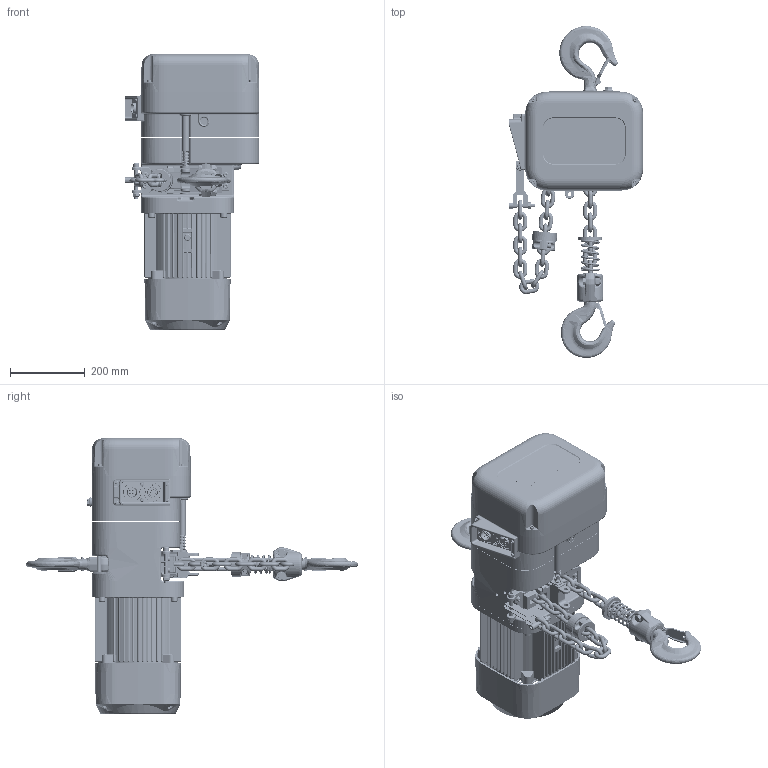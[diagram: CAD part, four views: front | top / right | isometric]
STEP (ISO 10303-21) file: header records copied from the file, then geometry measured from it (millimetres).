
FILE_DESCRIPTION (( 'STEP AP214' ), '1' );
FILE_NAME ('NER2025S.STEP', '2025-10-10T19:14:53', ( '' ), ( '' ), 'SwSTEP 2.0', 'SolidWorks 2025', '' );
FILE_SCHEMA (( 'AUTOMOTIVE_DESIGN' ));
Length unit declared in the file: millimetre
Products named in the file (55): ER1ES1041; 9091254_9091254; LCER2025NP; ER2EI4511; ER2FS9001; ER2FS9104_ER2FS9104; ER2FS9338; ENDS2F; ER2CS9357; ES127005S; ER2FS6122; ER2BHM25I9A6; ER2FS9011; MS561010; ER1FH9054; ER1ES9408; ER1BS9135; ER2BHM20I9A5; ER2FS9103; LCER2025 NP (SHAPED 2); ER2FS1001; J1NA001-20120_B18.2.4.1M - Hex nut, Style 1,  M12 x 1.75 --D-C; ER2FS1011; ER1EM9051; J1BY9-1204030_B18.2.3.1M - Hex cap screw, M12 x 1.75 x 40 --40C; ER2CS9511; 9091255_9091255; LCER2025NP_12 Links; ER2FS2015; CF071030; ER2ES1002; ER2EI2523; ER2ES9107_ER2ES9107; 9679709_B18.21.2M-External Tooth Lock Washers_AM6; J1WS011-20120_Rectangular section spring washer BS 4464 - 16 (Type B); ER2FS9331; 90912101_B18.3.1M - 10 x 1.5 x 60 Hex SHCS -- 60CHX; ER2FS6121; 9091274_9091274; ES066075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
Assembly tree (123 placements, depth 4):
  NER2025S
    ER2FS9104_ER2FS9104
    ER2FS9103
    ER2FS9101
    ER2FS9105
    ER2ES9107_ER2ES9107
    ER2FS9331
    ER2FS9338
    ER2FS9337
    ER2CS9357
    9012711_9012711  x4
    9091274_9091274  x4
    9091255_9091255  x4
    90912116_90912116  x4
    9679709_B18.21.2M-External Tooth Lock Washers_AM6  x4
    9091254_9091254  x4
    ES127005S
    ER1BS9135
    E3S112003
    E3S111003
    ER2EI4511
      ER2CS9511
      MS561010  x8
      ER2EI2523
      ER2EI2564
      ES558003  x8
    ER1EM9051
    ER2FS6121
    ER2FS6122
    ER1EM9053
    ER1ES1041
    LCER2025NP_12 Links
      LCER2025NP  x12
    LCER2025 NP (SHAPED 2)
      LCER2025NP  x21
    ER2BHM20I9A5
    ER2FS1011
      ER2FS9011
      ER2ES1002
      ER2FS2015
        ER2FS9015  x2
        J1BY9-1204030_B18.2.3.1M - Hex cap screw, M12 x 1.75 x 40 --40C  x2
        J1WS011-20120_Rectangular section spring washer BS 4464 - 16 (Type B)  x2
        J1NA001-20120_B18.2.4.1M - Hex nut, Style 1,  M12 x 1.75 --D-C  x2
    ER1FH9054
    ENDS2F
      ER1ES9408
      90912101_B18.3.1M - 10 x 1.5 x 60 Hex SHCS -- 60CHX
      90912140_B18.3.1M - 10 x 1.5 x 85 Hex SHCS -- 85CHX
      ES066075  x2
    ER2BHM25I9A6
    ER2FS9117
    ER2FS9118
    ER2FS1001
      ER2FS9001
      CF071030
Bounding box: 360 x 886.4 x 735.27 mm (x, y, z)
Volume: 29829525.8 mm3; surface area: 2499312.4 mm2
Topology: 131 solids, 135 shells, 5974 faces, 15303 edges, 9479 vertices
Faces by surface type: cylinder 2289, plane 1940, torus 669, bspline 461, cone 362, sphere 253
Entity records: 192406 total; most frequent: CARTESIAN_POINT 78766, DIRECTION 23420, ORIENTED_EDGE 22878, EDGE_CURVE 11439, AXIS2_PLACEMENT_3D 9084, VERTEX_POINT 7222, VECTOR 5252, LINE 5252
